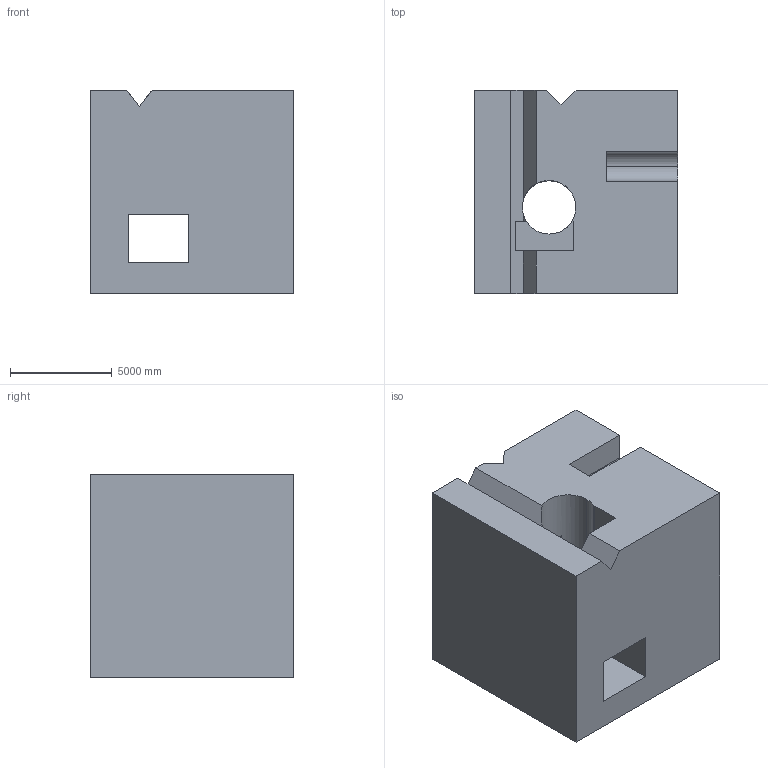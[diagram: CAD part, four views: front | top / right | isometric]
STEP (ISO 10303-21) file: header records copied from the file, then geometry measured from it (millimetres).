
FILE_DESCRIPTION (( 'STEP AP203' ), '1' );
FILE_NAME ('1588.STEP', '2022-08-26T13:17:37', ( 'user' ), ( '' ), 'SwSTEP 2.0', 'SolidWorks 2021', '' );
FILE_SCHEMA (( 'CONFIG_CONTROL_DESIGN' ));
Length unit declared in the file: centimetre
Products named in the file (1): 1588
Bounding box: 10000 x 10000 x 10000 mm (x, y, z)
Volume: 862990067031.4 mm3; surface area: 760621378.9 mm2
Topology: 1 solids, 1 shells, 33 faces, 105 edges, 70 vertices
Faces by surface type: plane 29, cylinder 4
Entity records: 1241 total; most frequent: CARTESIAN_POINT 221, ORIENTED_EDGE 210, DIRECTION 182, EDGE_CURVE 105, LINE 88, VECTOR 88, VERTEX_POINT 70, AXIS2_PLACEMENT_3D 47
